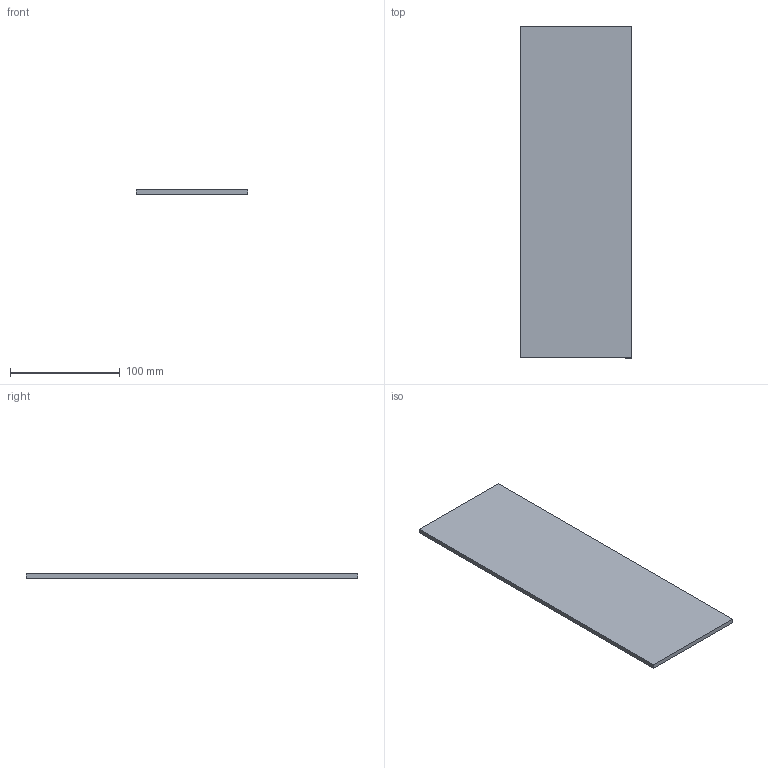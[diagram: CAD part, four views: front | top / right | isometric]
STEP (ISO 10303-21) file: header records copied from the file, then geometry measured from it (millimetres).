
FILE_DESCRIPTION (( 'STEP AP203' ), '1' );
FILE_NAME ('Complément_isolation_dessous.STEP', '2026-06-24T07:29:48', ( '' ), ( '' ), 'SwSTEP 2.0', 'SolidWorks 2024', '' );
FILE_SCHEMA (( 'CONFIG_CONTROL_DESIGN' ));
Length unit declared in the file: millimetre
Products named in the file (1): Complément_isolation_dessous
Bounding box: 102 x 303 x 4 mm (x, y, z)
Volume: 123624 mm3; surface area: 65052 mm2
Topology: 1 solids, 1 shells, 6 faces, 12 edges, 8 vertices
Faces by surface type: plane 6
Entity records: 231 total; most frequent: CARTESIAN_POINT 27, DIRECTION 26, ORIENTED_EDGE 24, LINE 12, VECTOR 12, EDGE_CURVE 12, VERTEX_POINT 8, PERSON_AND_ORGANIZATION 8
